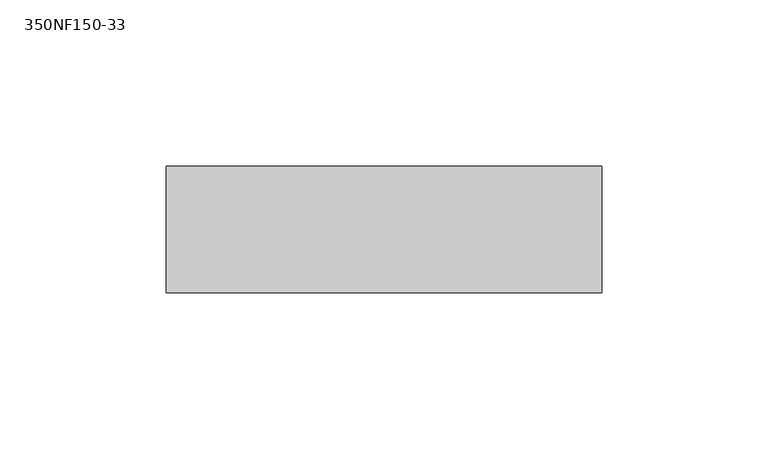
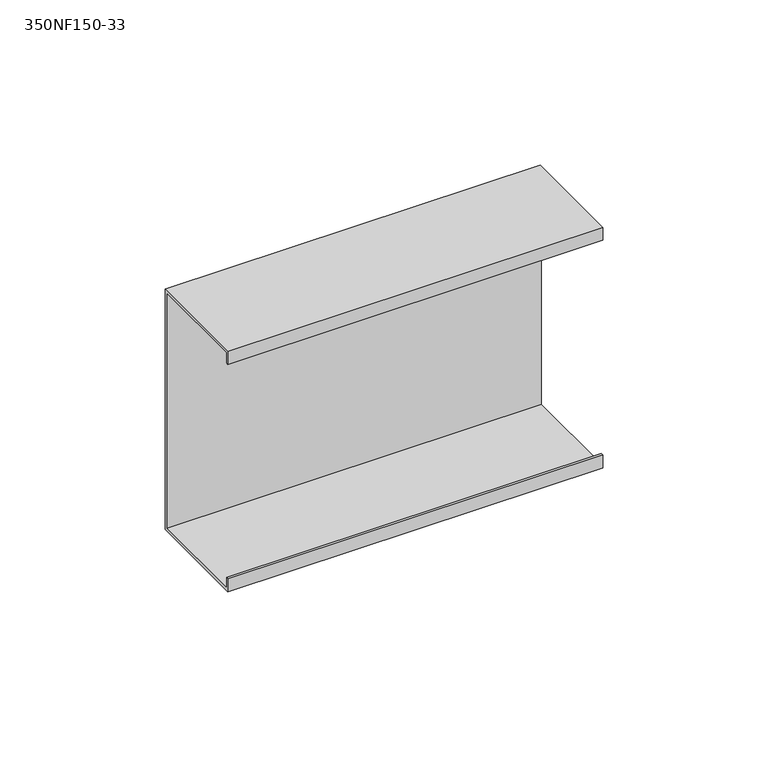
"""IFC4 building model written with IfcOpenShell, lengths in millimetres: beam geometry, BIMSF-SSMA-S : 350NF150-33."""

from ifc_helpers import new_model, si_unit, frame, origin, place, context, project, spatial, polyline, outline, extrude, source, transform, mapped, element, save


def beam_350nf150_33_756c904e(model_context):
    return source(origin(), model_context, "Body", "SweptSolid", [
        extrude(outline(polyline([(19.05, 44.45), (19.05, -44.45), (-19.05, -44.45), (-19.05, -39.6748), (-18.1676842, -39.6748), (-18.1676842, -43.5676842), (18.1676842, -43.5676842), (18.1676842, 43.5676842), (-18.1676842, 43.5676842), (-18.1676842, 39.6748), (-19.05, 39.6748), (-19.05, 44.45), (19.05, 44.45)])), frame((-65.5621464, 0.0, 0.0), z_axis=(1.0, 0.0, 0.0), x_axis=(0.0, 1.0, 0.0)), (0.0, 0.0, 1.0), 131.1242928),
    ])


if __name__ == "__main__":
    model = new_model("IFC4")
    model_context = context("Model", 3, world=origin())
    ifc_project = project(units=[si_unit("LENGTHUNIT", "METRE", prefix="MILLI")], contexts=[model_context])
    site = spatial("IfcSite", under=ifc_project)
    building = spatial("IfcBuilding", under=site)
    placement = place(None, origin())
    beam_350nf150_33_shape = beam_350nf150_33_756c904e(model_context)
    element("IfcBeam", 1, ObjectType="BIMSF-SSMA-S : 350NF150-33", at=placement, inside=building, context=model_context, shape_type="MappedRepresentation", body=[
        mapped(beam_350nf150_33_shape, transform((0.0, 0.0, 0.0), x_axis=(1.0, 0.0, 0.0), y_axis=(0.0, 1.0, 0.0), z_axis=(0.0, 0.0, 1.0))),
    ])
    save(model, "model.ifc")
